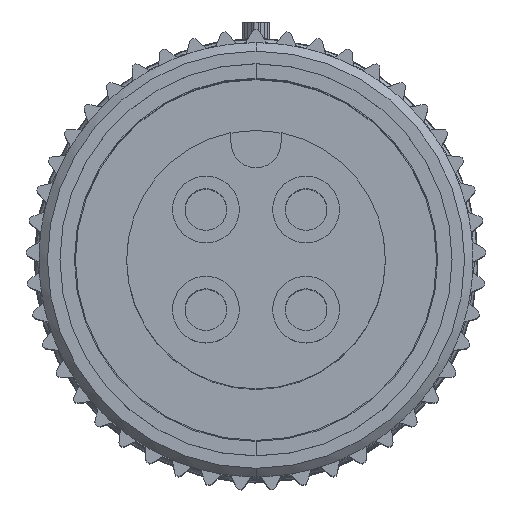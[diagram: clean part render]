
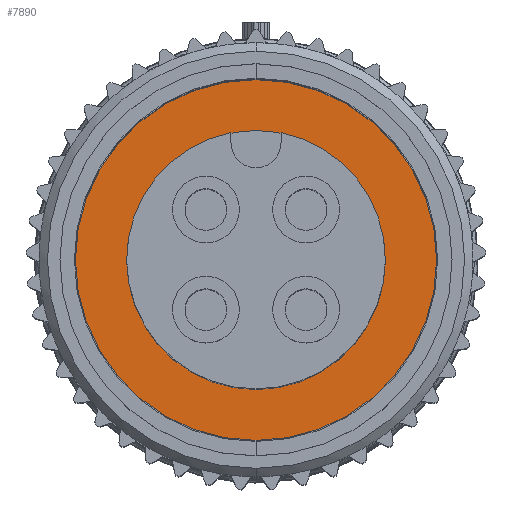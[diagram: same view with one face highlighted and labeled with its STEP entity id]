
A CAD part, top view. The second image highlights one B-rep face of the part: STEP entity #7890.
In plain terms, the highlighted planar face has unit normal (0, 0, 1).
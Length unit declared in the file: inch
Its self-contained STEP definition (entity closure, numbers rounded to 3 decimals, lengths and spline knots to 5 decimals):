
#40=CARTESIAN_POINT('',(0.,0.,-0.5));
#41=DIRECTION('',(0.,0.,-1.));
#42=DIRECTION('',(0.,-1.,0.));
#43=AXIS2_PLACEMENT_3D('',#40,#41,#42);
#45=CARTESIAN_POINT('',(0.,0.,-0.5));
#46=DIRECTION('',(0.,0.,-1.));
#47=DIRECTION('',(0.,1.,0.));
#48=AXIS2_PLACEMENT_3D('',#45,#46,#47);
#50=CARTESIAN_POINT('',(0.,0.,-0.5));
#51=DIRECTION('',(0.,0.,1.));
#52=DIRECTION('',(0.,-1.,0.));
#53=AXIS2_PLACEMENT_3D('',#50,#51,#52);
#55=CARTESIAN_POINT('',(0.,0.,-0.5));
#56=DIRECTION('',(0.,0.,1.));
#57=DIRECTION('',(0.,1.,0.));
#58=AXIS2_PLACEMENT_3D('',#55,#56,#57);
#6408=CARTESIAN_POINT('',(0.,-0.155,-0.5));
#6409=VERTEX_POINT('',#6408);
#6410=CARTESIAN_POINT('',(0.,0.155,-0.5));
#6411=VERTEX_POINT('',#6410);
#6420=CARTESIAN_POINT('',(0.,-0.2165,-0.5));
#6421=CARTESIAN_POINT('',(0.,0.2165,-0.5));
#6422=VERTEX_POINT('',#6420);
#6423=VERTEX_POINT('',#6421);
#7875=CARTESIAN_POINT('',(0.,0.,-0.5));
#7876=DIRECTION('',(0.,0.,1.));
#7877=DIRECTION('',(0.,1.,0.));
#7878=AXIS2_PLACEMENT_3D('',#7875,#7876,#7877);
#7879=PLANE('',#7878);
#7881=ORIENTED_EDGE('',*,*,#7880,.T.);
#7883=ORIENTED_EDGE('',*,*,#7882,.T.);
#7884=EDGE_LOOP('',(#7881,#7883));
#7885=FACE_OUTER_BOUND('',#7884,.F.);
#7886=ORIENTED_EDGE('',*,*,#7865,.T.);
#7887=ORIENTED_EDGE('',*,*,#7834,.T.);
#7888=EDGE_LOOP('',(#7886,#7887));
#7889=FACE_BOUND('',#7888,.F.);
#7890=ADVANCED_FACE('',(#7885,#7889),#7879,.T.);
#44=CIRCLE('',#43,0.2165);
#49=CIRCLE('',#48,0.2165);
#54=CIRCLE('',#53,0.155);
#59=CIRCLE('',#58,0.155);
#7834=EDGE_CURVE('',#6411,#6409,#59,.T.);
#7865=EDGE_CURVE('',#6409,#6411,#54,.T.);
#7880=EDGE_CURVE('',#6422,#6423,#44,.T.);
#7882=EDGE_CURVE('',#6423,#6422,#49,.T.);
